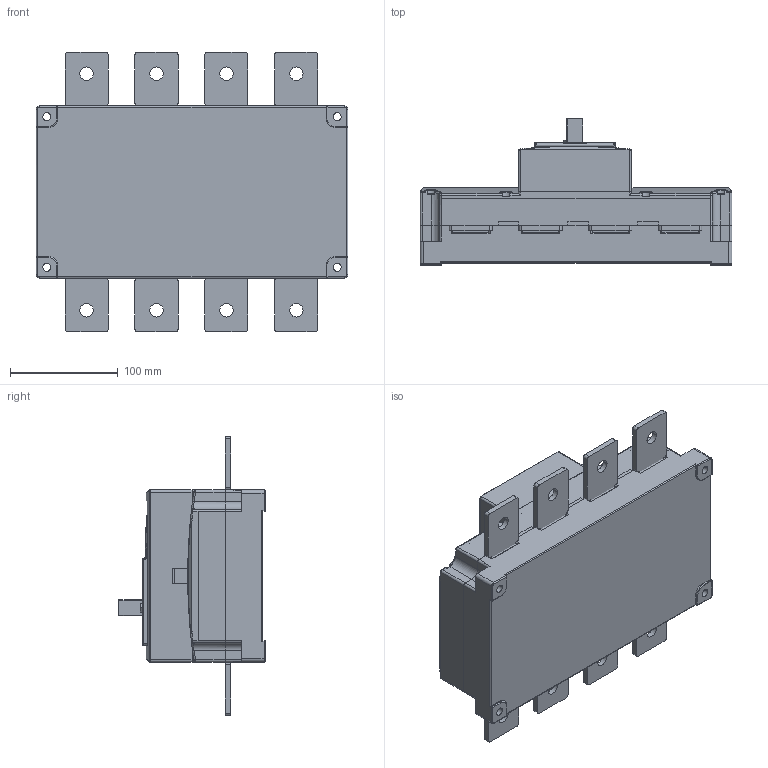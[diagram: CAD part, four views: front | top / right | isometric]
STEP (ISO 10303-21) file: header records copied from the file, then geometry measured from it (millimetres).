
FILE_DESCRIPTION((''),'2;1');
FILE_NAME('NH40-630-4_ASM','2018-05-15T',('zhuanghy'),(''),'PRO/ENGINEER BY PARAMETRIC TECHNOLOGY CORPORATION, 2008380','PRO/ENGINEER BY PARAMETRIC TECHNOLOGY CORPORATION, 2008380','');
FILE_SCHEMA(('CONFIG_CONTROL_DESIGN'));
Length unit declared in the file: millimetre
Products named in the file (7): PRT0054; PRT0055; PRT0056; PRT0057; PRT0058; ASM0012_ASM; NH40-630-4_ASM
Assembly tree (13 placements, depth 3):
  NH40-630-4_ASM
    ASM0012_ASM
      PRT0054
      PRT0055
      PRT0056
      PRT0057
      PRT0058  x8
Bounding box: 290 x 136 x 260 mm (x, y, z)
Volume: 4267160.7 mm3; surface area: 443567.9 mm2
Topology: 12 solids, 13 shells, 1112 faces, 2910 edges, 1829 vertices
Faces by surface type: cylinder 459, plane 417, bspline 106, torus 105, sphere 17, cone 8
Entity records: 42623 total; most frequent: CARTESIAN_POINT 20093, ORIENTED_EDGE 4830, DIRECTION 4513, EDGE_CURVE 2415, AXIS2_PLACEMENT_3D 1653, VERTEX_POINT 1507, VECTOR 1207, LINE 1207
